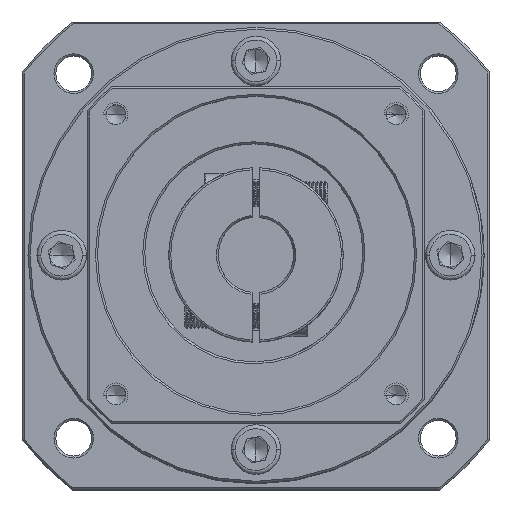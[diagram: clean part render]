
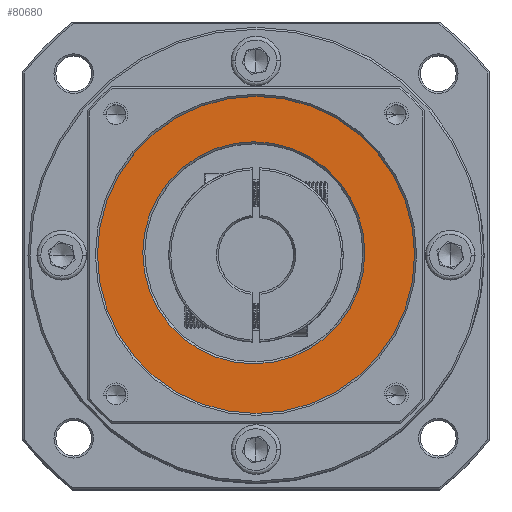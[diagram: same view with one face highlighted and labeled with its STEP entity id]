
A CAD part, top view. The second image highlights one B-rep face of the part: STEP entity #80680.
In plain terms, the highlighted planar face has unit normal (0, 0, 1).
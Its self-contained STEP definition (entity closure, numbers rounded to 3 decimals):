
#206 = DIRECTION ( 'NONE',  ( 1., 0., 0. ) ) ;
#5125 = ORIENTED_EDGE ( 'NONE', *, *, #111430, .T. ) ;
#5734 = DIRECTION ( 'NONE',  ( 0., 0., -1. ) ) ;
#7529 = CIRCLE ( 'NONE', #20431, 40. ) ;
#11326 = VERTEX_POINT ( 'NONE', #99904 ) ;
#13421 = EDGE_LOOP ( 'NONE', ( #21590, #95888 ) ) ;
#15383 = EDGE_CURVE ( 'NONE', #102257, #43280, #81541, .T. ) ;
#18848 = EDGE_LOOP ( 'NONE', ( #34436, #5125 ) ) ;
#20431 = AXIS2_PLACEMENT_3D ( 'NONE', #105058, #52666, #206 ) ;
#21590 = ORIENTED_EDGE ( 'NONE', *, *, #46002, .T. ) ;
#28346 = VERTEX_POINT ( 'NONE', #33980 ) ;
#30704 = CARTESIAN_POINT ( 'NONE',  ( -104.379, 49.849, 42.838 ) ) ;
#33980 = CARTESIAN_POINT ( 'NONE',  ( -76.92, 50.383, 42.838 ) ) ;
#34436 = ORIENTED_EDGE ( 'NONE', *, *, #52047, .T. ) ;
#39525 = DIRECTION ( 'NONE',  ( 1., 0., 0. ) ) ;
#39877 = DIRECTION ( 'NONE',  ( 0., 0., 1. ) ) ;
#43280 = VERTEX_POINT ( 'NONE', #98388 ) ;
#46002 = EDGE_CURVE ( 'NONE', #43280, #102257, #7529, .T. ) ;
#51655 = DIRECTION ( 'NONE',  ( 0., 0., -1. ) ) ;
#52047 = EDGE_CURVE ( 'NONE', #28346, #11326, #97707, .T. ) ;
#52666 = DIRECTION ( 'NONE',  ( 0., 0., 1. ) ) ;
#54272 = CIRCLE ( 'NONE', #109217, 28. ) ;
#58214 = CARTESIAN_POINT ( 'NONE',  ( -104.92, 50.383, 42.838 ) ) ;
#63160 = CARTESIAN_POINT ( 'NONE',  ( -144.379, 49.849, 42.838 ) ) ;
#66991 = DIRECTION ( 'NONE',  ( 1., 0., 0. ) ) ;
#69596 = AXIS2_PLACEMENT_3D ( 'NONE', #30704, #92000, #39525 ) ;
#73718 = AXIS2_PLACEMENT_3D ( 'NONE', #92342, #39877, #101152 ) ;
#78846 = FACE_OUTER_BOUND ( 'NONE', #13421, .T. ) ;
#80680 = ADVANCED_FACE ( 'NONE', ( #78846, #102119 ), #109468, .T. ) ;
#81541 = CIRCLE ( 'NONE', #69596, 40. ) ;
#92000 = DIRECTION ( 'NONE',  ( 0., 0., 1. ) ) ;
#92342 = CARTESIAN_POINT ( 'NONE',  ( -104.379, 49.849, 42.838 ) ) ;
#95888 = ORIENTED_EDGE ( 'NONE', *, *, #15383, .T. ) ;
#97707 = CIRCLE ( 'NONE', #110080, 28. ) ;
#98388 = CARTESIAN_POINT ( 'NONE',  ( -64.379, 49.849, 42.838 ) ) ;
#99904 = CARTESIAN_POINT ( 'NONE',  ( -132.92, 50.383, 42.838 ) ) ;
#101152 = DIRECTION ( 'NONE',  ( 1., 0., 0. ) ) ;
#102119 = FACE_BOUND ( 'NONE', #18848, .T. ) ;
#102257 = VERTEX_POINT ( 'NONE', #63160 ) ;
#104083 = CARTESIAN_POINT ( 'NONE',  ( -104.92, 50.383, 42.838 ) ) ;
#105058 = CARTESIAN_POINT ( 'NONE',  ( -104.379, 49.849, 42.838 ) ) ;
#109217 = AXIS2_PLACEMENT_3D ( 'NONE', #104083, #51655, #112788 ) ;
#109468 = PLANE ( 'NONE',  #73718 ) ;
#110080 = AXIS2_PLACEMENT_3D ( 'NONE', #58214, #5734, #66991 ) ;
#111430 = EDGE_CURVE ( 'NONE', #11326, #28346, #54272, .T. ) ;
#112788 = DIRECTION ( 'NONE',  ( 1., 0., 0. ) ) ;
